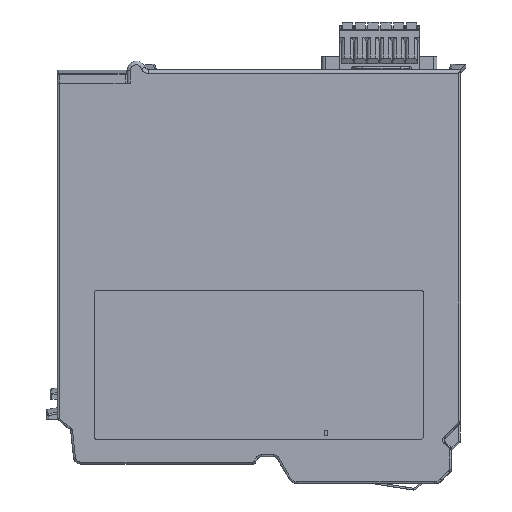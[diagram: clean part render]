
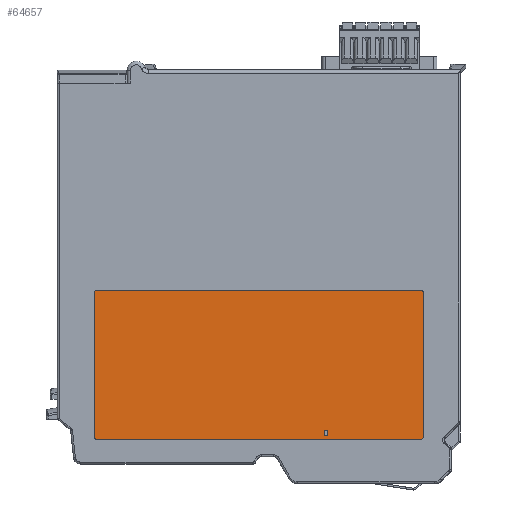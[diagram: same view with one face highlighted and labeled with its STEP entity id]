
A CAD part, left-side view. The second image highlights one B-rep face of the part: STEP entity #64657.
In plain terms, the highlighted planar face has unit normal (-1, 0, 0).
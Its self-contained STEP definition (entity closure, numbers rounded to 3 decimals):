
#4093 = EDGE_CURVE ( 'NONE', #40095, #40059, #73294, .T. ) ;
#4095 = EDGE_CURVE ( 'NONE', #40092, #40095, #91126, .T. ) ;
#4097 = EDGE_CURVE ( 'NONE', #40089, #40092, #73312, .T. ) ;
#4099 = EDGE_CURVE ( 'NONE', #40086, #40089, #91142, .T. ) ;
#4101 = EDGE_CURVE ( 'NONE', #40084, #40086, #73335, .T. ) ;
#4103 = EDGE_CURVE ( 'NONE', #40078, #40084, #91167, .T. ) ;
#4105 = EDGE_CURVE ( 'NONE', #40081, #40078, #73355, .T. ) ;
#4107 = EDGE_CURVE ( 'NONE', #40059, #40081, #91191, .T. ) ;
#4732 = EDGE_CURVE ( 'NONE', #81964, #81973, #81454, .T. ) ;
#4734 = EDGE_CURVE ( 'NONE', #81965, #81968, #81460, .T. ) ;
#4808 = EDGE_CURVE ( 'NONE', #81965, #81973, #120557, .T. ) ;
#4817 = EDGE_CURVE ( 'NONE', #81964, #81968, #120569, .T. ) ;
#14636 = CARTESIAN_POINT ( 'NONE',  ( -30.376, -8.7, 7.2 ) ) ;
#14680 = CARTESIAN_POINT ( 'NONE',  ( -30.376, -7.7, 47. ) ) ;
#14688 = CARTESIAN_POINT ( 'NONE',  ( -30.376, -7.7, 8.2 ) ) ;
#14696 = CARTESIAN_POINT ( 'NONE',  ( -30.376, -8.7, 48. ) ) ;
#14702 = CARTESIAN_POINT ( 'NONE',  ( -30.376, -96.7, 48. ) ) ;
#14708 = CARTESIAN_POINT ( 'NONE',  ( -30.376, -97.7, 47. ) ) ;
#14714 = CARTESIAN_POINT ( 'NONE',  ( -30.376, -97.7, 8.2 ) ) ;
#14718 = CARTESIAN_POINT ( 'NONE',  ( -30.376, -96.7, 7.2 ) ) ;
#22752 = AXIS2_PLACEMENT_3D ( 'NONE', #47527, #47531, #47534 ) ;
#23878 = VECTOR ( 'NONE', #120571, 1000. ) ;
#23882 = VECTOR ( 'NONE', #120560, 1000. ) ;
#24029 = VECTOR ( 'NONE', #81462, 1000. ) ;
#24032 = VECTOR ( 'NONE', #81475, 1000. ) ;
#40059 = VERTEX_POINT ( 'NONE', #14636 ) ;
#40078 = VERTEX_POINT ( 'NONE', #14680 ) ;
#40081 = VERTEX_POINT ( 'NONE', #14688 ) ;
#40084 = VERTEX_POINT ( 'NONE', #14696 ) ;
#40086 = VERTEX_POINT ( 'NONE', #14702 ) ;
#40089 = VERTEX_POINT ( 'NONE', #14708 ) ;
#40092 = VERTEX_POINT ( 'NONE', #14714 ) ;
#40095 = VERTEX_POINT ( 'NONE', #14718 ) ;
#41210 = ORIENTED_EDGE ( 'NONE', *, *, #4808, .T. ) ;
#41212 = ORIENTED_EDGE ( 'NONE', *, *, #4732, .F. ) ;
#41214 = ORIENTED_EDGE ( 'NONE', *, *, #4817, .T. ) ;
#41216 = ORIENTED_EDGE ( 'NONE', *, *, #4734, .F. ) ;
#41218 = ORIENTED_EDGE ( 'NONE', *, *, #4107, .F. ) ;
#41220 = ORIENTED_EDGE ( 'NONE', *, *, #4093, .F. ) ;
#41223 = ORIENTED_EDGE ( 'NONE', *, *, #4095, .F. ) ;
#41224 = ORIENTED_EDGE ( 'NONE', *, *, #4097, .F. ) ;
#41225 = ORIENTED_EDGE ( 'NONE', *, *, #4099, .F. ) ;
#41228 = ORIENTED_EDGE ( 'NONE', *, *, #4101, .F. ) ;
#41230 = ORIENTED_EDGE ( 'NONE', *, *, #4103, .F. ) ;
#41231 = ORIENTED_EDGE ( 'NONE', *, *, #4105, .F. ) ;
#47373 = FACE_OUTER_BOUND ( 'NONE', #96170, .T. ) ;
#47456 = FACE_BOUND ( 'NONE', #96181, .T. ) ;
#47464 = PLANE ( 'NONE',  #22752 ) ;
#47527 = CARTESIAN_POINT ( 'NONE',  ( -30.376, -8.7, 8.2 ) ) ;
#47531 = DIRECTION ( 'NONE',  ( -1., 0., 0. ) ) ;
#47534 = DIRECTION ( 'NONE',  ( 0., 0., 1. ) ) ;
#64657 = ADVANCED_FACE ( 'NONE', ( #47456, #47373 ), #47464, .T. ) ;
#73294 = LINE ( 'NONE', #73300, #91111 ) ;
#73300 = CARTESIAN_POINT ( 'NONE',  ( -30.376, -8.7, 7.2 ) ) ;
#73305 = DIRECTION ( 'NONE',  ( 0., 1., 0. ) ) ;
#73312 = LINE ( 'NONE', #73321, #91122 ) ;
#73313 = CARTESIAN_POINT ( 'NONE',  ( -30.376, -96.7, 8.2 ) ) ;
#73314 = DIRECTION ( 'NONE',  ( 1., 0., 0. ) ) ;
#73315 = DIRECTION ( 'NONE',  ( 0., 0., 1. ) ) ;
#73321 = CARTESIAN_POINT ( 'NONE',  ( -30.376, -97.7, 8.2 ) ) ;
#73324 = DIRECTION ( 'NONE',  ( 0., 0., -1. ) ) ;
#73335 = LINE ( 'NONE', #73343, #91151 ) ;
#73337 = CARTESIAN_POINT ( 'NONE',  ( -30.376, -96.7, 47. ) ) ;
#73338 = DIRECTION ( 'NONE',  ( 1., 0., 0. ) ) ;
#73339 = DIRECTION ( 'NONE',  ( 0., 0., 1. ) ) ;
#73343 = CARTESIAN_POINT ( 'NONE',  ( -30.376, -8.7, 48. ) ) ;
#73345 = DIRECTION ( 'NONE',  ( 0., -1., 0. ) ) ;
#73355 = LINE ( 'NONE', #73365, #91179 ) ;
#73357 = CARTESIAN_POINT ( 'NONE',  ( -30.376, -8.7, 47. ) ) ;
#73359 = DIRECTION ( 'NONE',  ( 1., 0., 0. ) ) ;
#73361 = DIRECTION ( 'NONE',  ( 0., 0., -1. ) ) ;
#73365 = CARTESIAN_POINT ( 'NONE',  ( -30.376, -7.7, 8.2 ) ) ;
#73367 = DIRECTION ( 'NONE',  ( 0., 0., 1. ) ) ;
#73376 = CARTESIAN_POINT ( 'NONE',  ( -30.376, -8.7, 8.2 ) ) ;
#73378 = DIRECTION ( 'NONE',  ( 1., 0., 0. ) ) ;
#73380 = DIRECTION ( 'NONE',  ( 0., 0., 1. ) ) ;
#81454 = LINE ( 'NONE', #81458, #24029 ) ;
#81458 = CARTESIAN_POINT ( 'NONE',  ( -30.376, -70.6, 8.2 ) ) ;
#81460 = LINE ( 'NONE', #81470, #24032 ) ;
#81462 = DIRECTION ( 'NONE',  ( 0., -1., 0. ) ) ;
#81470 = CARTESIAN_POINT ( 'NONE',  ( -30.376, -70.6, 9.7 ) ) ;
#81475 = DIRECTION ( 'NONE',  ( 0., 1., 0. ) ) ;
#81964 = VERTEX_POINT ( 'NONE', #124331 ) ;
#81965 = VERTEX_POINT ( 'NONE', #124332 ) ;
#81968 = VERTEX_POINT ( 'NONE', #124334 ) ;
#81973 = VERTEX_POINT ( 'NONE', #124338 ) ;
#91111 = VECTOR ( 'NONE', #73305, 1000. ) ;
#91122 = VECTOR ( 'NONE', #73324, 1000. ) ;
#91126 = CIRCLE ( 'NONE', #91137, 1. ) ;
#91137 = AXIS2_PLACEMENT_3D ( 'NONE', #73313, #73314, #73315 ) ;
#91142 = CIRCLE ( 'NONE', #91162, 1. ) ;
#91151 = VECTOR ( 'NONE', #73345, 1000. ) ;
#91162 = AXIS2_PLACEMENT_3D ( 'NONE', #73337, #73338, #73339 ) ;
#91167 = CIRCLE ( 'NONE', #91186, 1. ) ;
#91179 = VECTOR ( 'NONE', #73367, 1000. ) ;
#91186 = AXIS2_PLACEMENT_3D ( 'NONE', #73357, #73359, #73361 ) ;
#91191 = CIRCLE ( 'NONE', #91217, 1. ) ;
#91217 = AXIS2_PLACEMENT_3D ( 'NONE', #73376, #73378, #73380 ) ;
#96170 = EDGE_LOOP ( 'NONE', ( #41218, #41220, #41223, #41224, #41225, #41228, #41230, #41231 ) ) ;
#96181 = EDGE_LOOP ( 'NONE', ( #41210, #41212, #41214, #41216 ) ) ;
#120557 = LINE ( 'NONE', #120559, #23882 ) ;
#120559 = CARTESIAN_POINT ( 'NONE',  ( -30.376, -71.3, 0. ) ) ;
#120560 = DIRECTION ( 'NONE',  ( 0., 0.009, -1. ) ) ;
#120569 = LINE ( 'NONE', #120570, #23878 ) ;
#120570 = CARTESIAN_POINT ( 'NONE',  ( -30.376, -70.6, 0. ) ) ;
#120571 = DIRECTION ( 'NONE',  ( 0., 0.009, 1. ) ) ;
#124331 = CARTESIAN_POINT ( 'NONE',  ( -30.376, -70.528, 8.2 ) ) ;
#124332 = CARTESIAN_POINT ( 'NONE',  ( -30.376, -71.385, 9.7 ) ) ;
#124334 = CARTESIAN_POINT ( 'NONE',  ( -30.376, -70.515, 9.7 ) ) ;
#124338 = CARTESIAN_POINT ( 'NONE',  ( -30.376, -71.372, 8.2 ) ) ;
